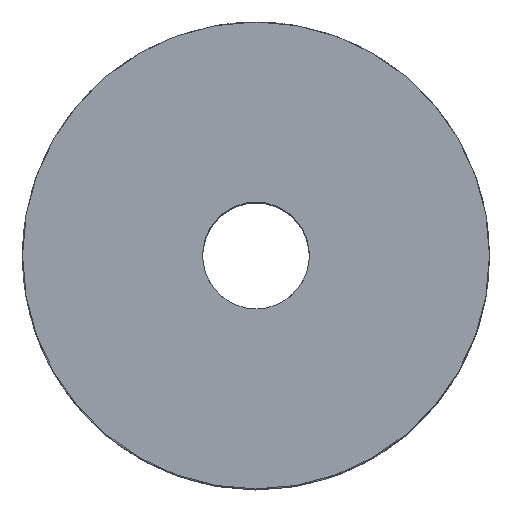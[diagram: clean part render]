
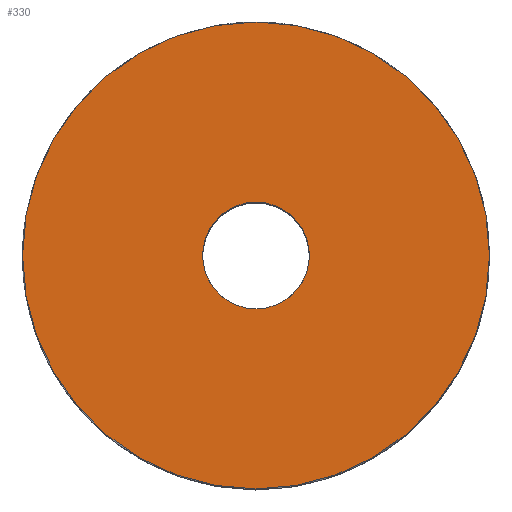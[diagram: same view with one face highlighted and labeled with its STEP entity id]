
A CAD part, top view. The second image highlights one B-rep face of the part: STEP entity #330.
In plain terms, the highlighted planar face has unit normal (0, 0, 1).
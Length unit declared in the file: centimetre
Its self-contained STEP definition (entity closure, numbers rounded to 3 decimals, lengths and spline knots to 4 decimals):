
#154=VERTEX_POINT('',#2274);
#158=VERTEX_POINT('',#2349);
#198=EDGE_CURVE('',#154,#154,#467,.T.);
#202=EDGE_CURVE('',#158,#158,#469,.T.);
#256=ORIENTED_EDGE('',*,*,#202,.F.);
#257=ORIENTED_EDGE('',*,*,#198,.F.);
#286=EDGE_LOOP('',(#256));
#287=EDGE_LOOP('',(#257));
#316=FACE_BOUND('',#286,.T.);
#317=FACE_BOUND('',#287,.T.);
#330=ADVANCED_FACE('',(#316,#317),#878,.T.);
#467=CIRCLE('',#813,0.875);
#469=CIRCLE('',#816,0.2);
#813=AXIS2_PLACEMENT_3D('',#2273,#1025,#1026);
#816=AXIS2_PLACEMENT_3D('',#2348,#1031,#1032);
#820=AXIS2_PLACEMENT_3D('',#2354,#1039,$);
#878=PLANE('',#820);
#1025=DIRECTION('',(0.,0.,-1.));
#1026=DIRECTION('',(0.875,0.,0.));
#1031=DIRECTION('',(0.,0.,1.));
#1032=DIRECTION('',(0.2,0.,0.));
#1039=DIRECTION('',(0.,0.,1.));
#2273=CARTESIAN_POINT('',(0.,0.,2.275));
#2274=CARTESIAN_POINT('',(0.875,0.,2.275));
#2348=CARTESIAN_POINT('',(0.,0.,2.275));
#2349=CARTESIAN_POINT('',(0.2,0.,2.275));
#2354=CARTESIAN_POINT('',(0.,0.,2.275));
